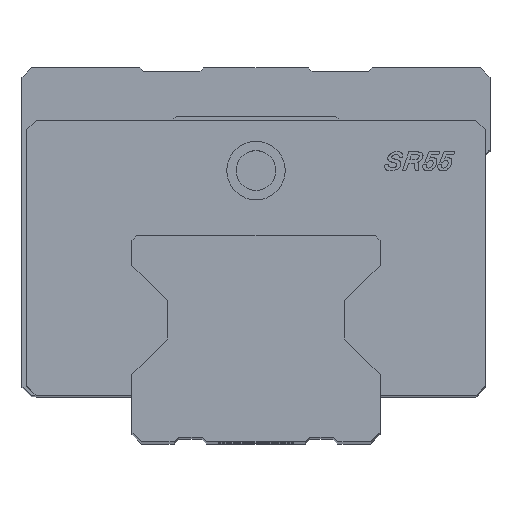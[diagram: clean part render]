
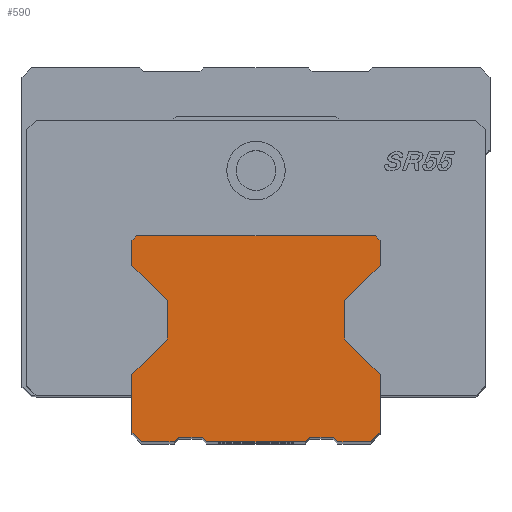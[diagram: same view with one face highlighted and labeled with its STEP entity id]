
A CAD part, top view. The second image highlights one B-rep face of the part: STEP entity #590.
In plain terms, the highlighted planar face has unit normal (0, 0, 1).
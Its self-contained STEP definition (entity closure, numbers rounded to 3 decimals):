
#375=FACE_OUTER_BOUND('',#1272,.T.);
#590=ADVANCED_FACE('',(#375),#732,.T.);
#732=PLANE('',#4946);
#1272=EDGE_LOOP('',(#2696,#2697,#2698,#2699,#2700,#2701,#2702,#2703,#2704,
#2705,#2706,#2707,#2708,#2709,#2710,#2711,#2712,#2713,#2714,#2715,#2716,
#2717,#2718,#2719));
#2696=ORIENTED_EDGE('',*,*,#3904,.F.);
#2697=ORIENTED_EDGE('',*,*,#3905,.F.);
#2698=ORIENTED_EDGE('',*,*,#3906,.F.);
#2699=ORIENTED_EDGE('',*,*,#3907,.F.);
#2700=ORIENTED_EDGE('',*,*,#3908,.F.);
#2701=ORIENTED_EDGE('',*,*,#3909,.F.);
#2702=ORIENTED_EDGE('',*,*,#3910,.F.);
#2703=ORIENTED_EDGE('',*,*,#3898,.F.);
#2704=ORIENTED_EDGE('',*,*,#3895,.F.);
#2705=ORIENTED_EDGE('',*,*,#3893,.F.);
#2706=ORIENTED_EDGE('',*,*,#3891,.F.);
#2707=ORIENTED_EDGE('',*,*,#3889,.F.);
#2708=ORIENTED_EDGE('',*,*,#3887,.F.);
#2709=ORIENTED_EDGE('',*,*,#3885,.F.);
#2710=ORIENTED_EDGE('',*,*,#3883,.F.);
#2711=ORIENTED_EDGE('',*,*,#3881,.F.);
#2712=ORIENTED_EDGE('',*,*,#3879,.F.);
#2713=ORIENTED_EDGE('',*,*,#3877,.F.);
#2714=ORIENTED_EDGE('',*,*,#3875,.F.);
#2715=ORIENTED_EDGE('',*,*,#3853,.F.);
#2716=ORIENTED_EDGE('',*,*,#3851,.F.);
#2717=ORIENTED_EDGE('',*,*,#3849,.F.);
#2718=ORIENTED_EDGE('',*,*,#3847,.F.);
#2719=ORIENTED_EDGE('',*,*,#3845,.F.);
#3227=VERTEX_POINT('',#8104);
#3228=VERTEX_POINT('',#8106);
#3229=VERTEX_POINT('',#8110);
#3230=VERTEX_POINT('',#8114);
#3231=VERTEX_POINT('',#8118);
#3232=VERTEX_POINT('',#8122);
#3253=VERTEX_POINT('',#8166);
#3254=VERTEX_POINT('',#8170);
#3255=VERTEX_POINT('',#8174);
#3256=VERTEX_POINT('',#8178);
#3257=VERTEX_POINT('',#8182);
#3258=VERTEX_POINT('',#8186);
#3259=VERTEX_POINT('',#8190);
#3260=VERTEX_POINT('',#8194);
#3261=VERTEX_POINT('',#8198);
#3262=VERTEX_POINT('',#8202);
#3263=VERTEX_POINT('',#8206);
#3264=VERTEX_POINT('',#8210);
#3270=VERTEX_POINT('',#8224);
#3271=VERTEX_POINT('',#8226);
#3272=VERTEX_POINT('',#8228);
#3273=VERTEX_POINT('',#8230);
#3274=VERTEX_POINT('',#8232);
#3275=VERTEX_POINT('',#8234);
#3845=EDGE_CURVE('',#3227,#3228,#4242,.T.);
#3847=EDGE_CURVE('',#3228,#3229,#4244,.T.);
#3849=EDGE_CURVE('',#3229,#3230,#4246,.T.);
#3851=EDGE_CURVE('',#3230,#3231,#4248,.T.);
#3853=EDGE_CURVE('',#3231,#3232,#4250,.T.);
#3875=EDGE_CURVE('',#3232,#3253,#4252,.T.);
#3877=EDGE_CURVE('',#3253,#3254,#4254,.T.);
#3879=EDGE_CURVE('',#3254,#3255,#4256,.T.);
#3881=EDGE_CURVE('',#3255,#3256,#4258,.T.);
#3883=EDGE_CURVE('',#3256,#3257,#4260,.T.);
#3885=EDGE_CURVE('',#3257,#3258,#4262,.T.);
#3887=EDGE_CURVE('',#3258,#3259,#4264,.T.);
#3889=EDGE_CURVE('',#3259,#3260,#4266,.T.);
#3891=EDGE_CURVE('',#3260,#3261,#4268,.T.);
#3893=EDGE_CURVE('',#3261,#3262,#4270,.T.);
#3895=EDGE_CURVE('',#3262,#3263,#4272,.T.);
#3898=EDGE_CURVE('',#3263,#3264,#4275,.T.);
#3904=EDGE_CURVE('',#3270,#3227,#4276,.T.);
#3905=EDGE_CURVE('',#3271,#3270,#4277,.T.);
#3906=EDGE_CURVE('',#3272,#3271,#4278,.T.);
#3907=EDGE_CURVE('',#3273,#3272,#4279,.T.);
#3908=EDGE_CURVE('',#3274,#3273,#4280,.T.);
#3909=EDGE_CURVE('',#3275,#3274,#4281,.T.);
#3910=EDGE_CURVE('',#3264,#3275,#4282,.T.);
#4242=LINE('',#8105,#4653);
#4244=LINE('',#8109,#4655);
#4246=LINE('',#8113,#4657);
#4248=LINE('',#8117,#4659);
#4250=LINE('',#8121,#4661);
#4252=LINE('',#8165,#4663);
#4254=LINE('',#8169,#4665);
#4256=LINE('',#8173,#4667);
#4258=LINE('',#8177,#4669);
#4260=LINE('',#8181,#4671);
#4262=LINE('',#8185,#4673);
#4264=LINE('',#8189,#4675);
#4266=LINE('',#8193,#4677);
#4268=LINE('',#8197,#4679);
#4270=LINE('',#8201,#4681);
#4272=LINE('',#8205,#4683);
#4275=LINE('',#8211,#4686);
#4276=LINE('',#8223,#4687);
#4277=LINE('',#8225,#4688);
#4278=LINE('',#8227,#4689);
#4279=LINE('',#8229,#4690);
#4280=LINE('',#8231,#4691);
#4281=LINE('',#8233,#4692);
#4282=LINE('',#8235,#4693);
#4653=VECTOR('',#5776,1.);
#4655=VECTOR('',#5780,1.);
#4657=VECTOR('',#5784,1.);
#4659=VECTOR('',#5788,1.);
#4661=VECTOR('',#5792,1.);
#4663=VECTOR('',#5836,1.);
#4665=VECTOR('',#5840,1.);
#4667=VECTOR('',#5844,1.);
#4669=VECTOR('',#5848,1.);
#4671=VECTOR('',#5852,1.);
#4673=VECTOR('',#5856,1.);
#4675=VECTOR('',#5860,1.);
#4677=VECTOR('',#5864,1.);
#4679=VECTOR('',#5868,1.);
#4681=VECTOR('',#5872,1.);
#4683=VECTOR('',#5876,1.);
#4686=VECTOR('',#5881,1.);
#4687=VECTOR('',#5894,1.);
#4688=VECTOR('',#5895,1.);
#4689=VECTOR('',#5896,1.);
#4690=VECTOR('',#5897,1.);
#4691=VECTOR('',#5898,1.);
#4692=VECTOR('',#5899,1.);
#4693=VECTOR('',#5900,1.);
#4946=AXIS2_PLACEMENT_3D('',#8236,#5901,#5902);
#5776=DIRECTION('',(0.,1.,0.));
#5780=DIRECTION('',(-0.707,0.707,0.));
#5784=DIRECTION('',(0.,1.,0.));
#5788=DIRECTION('',(0.707,0.707,0.));
#5792=DIRECTION('',(1.,0.,0.));
#5836=DIRECTION('',(0.707,-0.707,0.));
#5840=DIRECTION('',(0.,-1.,0.));
#5844=DIRECTION('',(-0.707,-0.707,0.));
#5848=DIRECTION('',(0.,-1.,0.));
#5852=DIRECTION('',(0.707,-0.707,0.));
#5856=DIRECTION('',(0.,-1.,0.));
#5860=DIRECTION('',(-0.707,-0.707,0.));
#5864=DIRECTION('',(-1.,0.,0.));
#5868=DIRECTION('',(-0.707,0.707,0.));
#5872=DIRECTION('',(-1.,0.,0.));
#5876=DIRECTION('',(-0.707,-0.707,0.));
#5881=DIRECTION('',(-1.,0.,0.));
#5894=DIRECTION('',(0.707,0.707,0.));
#5895=DIRECTION('',(0.,1.,0.));
#5896=DIRECTION('',(-0.707,0.707,0.));
#5897=DIRECTION('',(-1.,0.,0.));
#5898=DIRECTION('',(-0.707,-0.707,0.));
#5899=DIRECTION('',(-1.,0.,0.));
#5900=DIRECTION('',(-0.707,0.707,0.));
#5901=DIRECTION('',(0.,0.,1.));
#5902=DIRECTION('',(1.,0.,0.));
#8104=CARTESIAN_POINT('',(-19.,-48.054,150.));
#8105=CARTESIAN_POINT('',(-19.,-48.054,150.));
#8106=CARTESIAN_POINT('',(-19.,-39.797,150.));
#8109=CARTESIAN_POINT('',(-19.,-39.797,150.));
#8110=CARTESIAN_POINT('',(-26.5,-32.297,150.));
#8113=CARTESIAN_POINT('',(-26.5,-32.297,150.));
#8114=CARTESIAN_POINT('',(-26.5,-27.,150.));
#8117=CARTESIAN_POINT('',(-26.5,-27.,150.));
#8118=CARTESIAN_POINT('',(-25.5,-26.,150.));
#8121=CARTESIAN_POINT('',(-25.5,-26.,150.));
#8122=CARTESIAN_POINT('',(25.5,-26.,150.));
#8165=CARTESIAN_POINT('',(25.5,-26.,150.));
#8166=CARTESIAN_POINT('',(26.5,-27.,150.));
#8169=CARTESIAN_POINT('',(26.5,-27.,150.));
#8170=CARTESIAN_POINT('',(26.5,-32.297,150.));
#8173=CARTESIAN_POINT('',(26.5,-32.297,150.));
#8174=CARTESIAN_POINT('',(19.,-39.797,150.));
#8177=CARTESIAN_POINT('',(19.,-39.797,150.));
#8178=CARTESIAN_POINT('',(19.,-48.054,150.));
#8181=CARTESIAN_POINT('',(19.,-48.054,150.));
#8182=CARTESIAN_POINT('',(26.5,-55.554,150.));
#8185=CARTESIAN_POINT('',(26.5,-55.554,150.));
#8186=CARTESIAN_POINT('',(26.5,-68.,150.));
#8189=CARTESIAN_POINT('',(26.5,-68.,150.));
#8190=CARTESIAN_POINT('',(24.5,-70.,150.));
#8193=CARTESIAN_POINT('',(24.5,-70.,150.));
#8194=CARTESIAN_POINT('',(17.5,-70.,150.));
#8197=CARTESIAN_POINT('',(17.5,-70.,150.));
#8198=CARTESIAN_POINT('',(16.5,-69.,150.));
#8201=CARTESIAN_POINT('',(16.5,-69.,150.));
#8202=CARTESIAN_POINT('',(11.5,-69.,150.));
#8205=CARTESIAN_POINT('',(11.5,-69.,150.));
#8206=CARTESIAN_POINT('',(10.5,-70.,150.));
#8210=CARTESIAN_POINT('',(-10.5,-70.,150.));
#8211=CARTESIAN_POINT('',(10.5,-70.,150.));
#8223=CARTESIAN_POINT('',(-26.5,-55.554,150.));
#8224=CARTESIAN_POINT('',(-26.5,-55.554,150.));
#8225=CARTESIAN_POINT('',(-26.5,-68.,150.));
#8226=CARTESIAN_POINT('',(-26.5,-68.,150.));
#8227=CARTESIAN_POINT('',(-24.5,-70.,150.));
#8228=CARTESIAN_POINT('',(-24.5,-70.,150.));
#8229=CARTESIAN_POINT('',(-17.5,-70.,150.));
#8230=CARTESIAN_POINT('',(-17.5,-70.,150.));
#8231=CARTESIAN_POINT('',(-16.5,-69.,150.));
#8232=CARTESIAN_POINT('',(-16.5,-69.,150.));
#8233=CARTESIAN_POINT('',(-11.5,-69.,150.));
#8234=CARTESIAN_POINT('',(-11.5,-69.,150.));
#8235=CARTESIAN_POINT('',(-10.5,-70.,150.));
#8236=CARTESIAN_POINT('',(-29.15,-72.2,150.));
